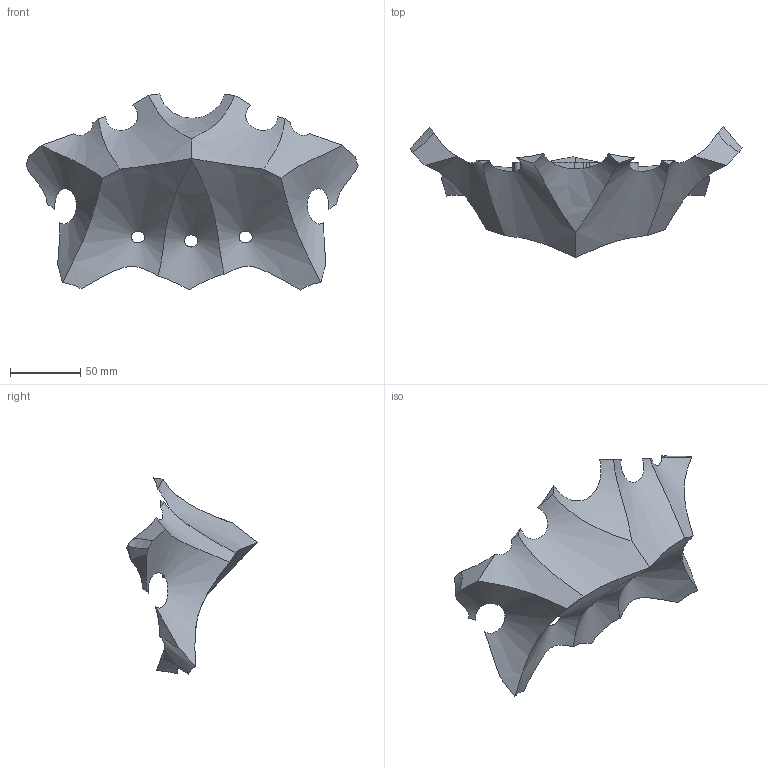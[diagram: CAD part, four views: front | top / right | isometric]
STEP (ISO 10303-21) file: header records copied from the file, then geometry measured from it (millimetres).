
FILE_DESCRIPTION(('FreeCAD Model'),'2;1');
FILE_NAME('C:/git/IndexHardware/exclusionfreecad.stp', '2019-10-15T14:15:58',('Author'),(''), 'Open CASCADE STEP processor 7.3','FreeCAD','Unknown');
FILE_SCHEMA(('AUTOMOTIVE_DESIGN { 1 0 10303 214 1 1 1 1 }'));
Length unit declared in the file: millimetre
Products named in the file (1): lucaE2589C626kcu
Bounding box: 236.94 x 93.45 x 139.94 mm (x, y, z)
Volume: 380824.8 mm3; surface area: 63701.1 mm2
Topology: 1 solids, 1 shells, 62 faces, 222 edges, 158 vertices
Faces by surface type: plane 17, bspline 16, cylinder 10, cone 9, extrusion 7, revolution 3
Entity records: 16711 total; most frequent: CARTESIAN_POINT 13427, B_SPLINE_CURVE_WITH_KNOTS 522, ORIENTED_EDGE 444, PCURVE 444, DEFINITIONAL_REPRESENTATION 444, DIRECTION 246, EDGE_CURVE 222, SURFACE_CURVE 219
